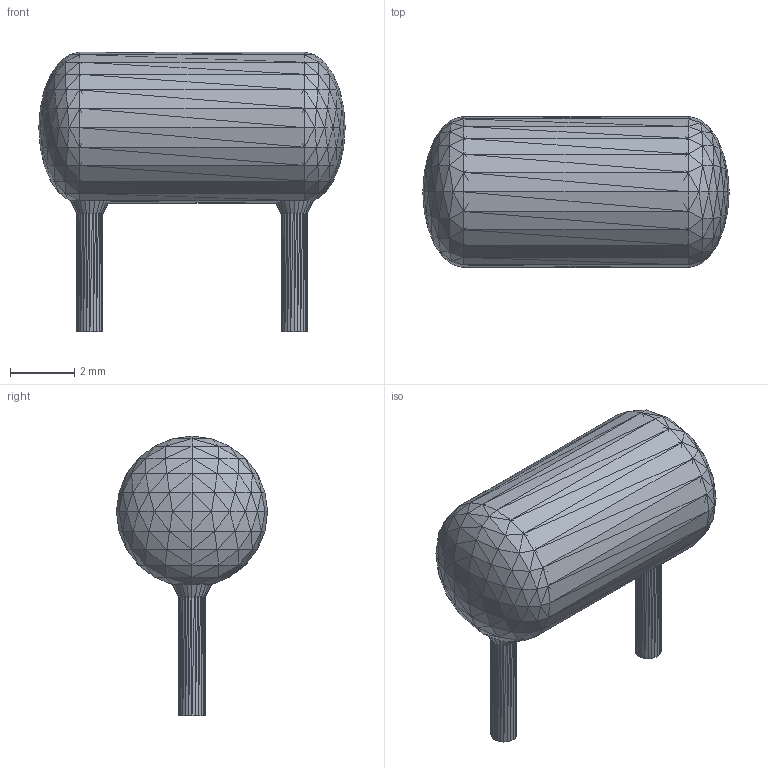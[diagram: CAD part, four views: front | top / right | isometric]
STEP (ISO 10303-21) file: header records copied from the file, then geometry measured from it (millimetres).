
FILE_DESCRIPTION(('HOOPS Exchange Step'),'2;1');
FILE_NAME('***.stp');
FILE_SCHEMA( ('AP242_MANAGED_MODEL_BASED_3D_ENGINEERING_MIM_LF {1 0 10303 442 1 1 4 }') );
Length unit declared in the file: inch
Products named in the file (8): CAPORGXXSMNF_2; CAPORGXXSMNF_3; CAPORGXXSMNF_4; CAPORGXXSMNF_5; CAPORGXXSMNF_6; CAPORGXXSMNF_7; CAPORGXXSMNF_8; CAPORGXXSMNF
Assembly tree (7 placements, depth 2):
  CAPORGXXSMNF
    CAPORGXXSMNF_2
    CAPORGXXSMNF_3
    CAPORGXXSMNF_4
    CAPORGXXSMNF_5
    CAPORGXXSMNF_6
    CAPORGXXSMNF_7
    CAPORGXXSMNF_8
Bounding box: 9.53 x 4.7 x 8.7 mm (x, y, z)
Surface area: 539.8 mm2 (no closed solid volume)
Topology: 0 solids, 1920 shells, 1920 faces, 1440 edges, 494 vertices
Faces by surface type: plane 1920
Entity records: 29644 total; most frequent: ORIENTED_EDGE 5760, DIRECTION 5312, CARTESIAN_POINT 3870, AXIS2_PLACEMENT_3D 1936, PLANE 1920, EDGE_LOOP 1920, FACE_BOUND 1920, ADVANCED_FACE 1920
